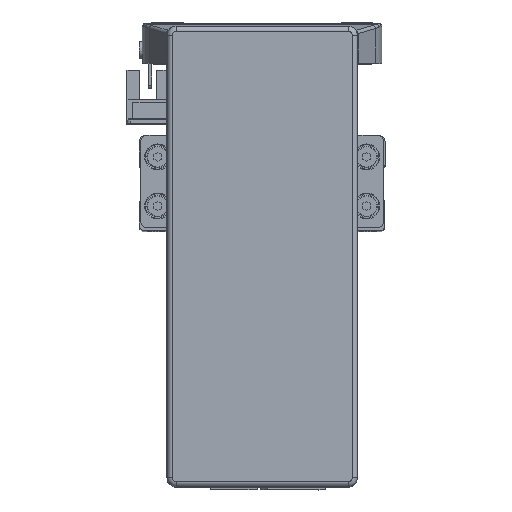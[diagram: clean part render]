
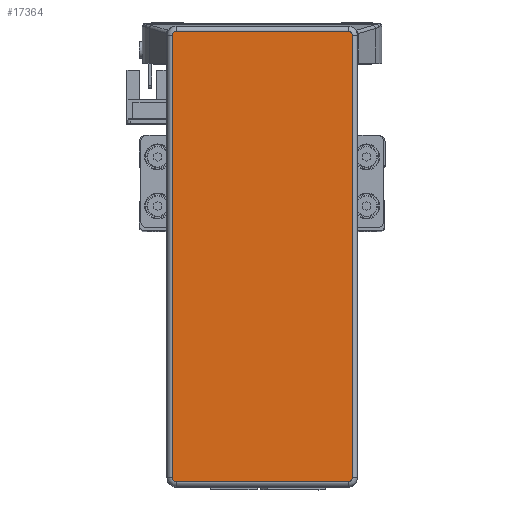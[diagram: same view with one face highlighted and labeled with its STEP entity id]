
A CAD part, top view. The second image highlights one B-rep face of the part: STEP entity #17364.
In plain terms, the highlighted planar face has unit normal (0, 0, 1) as drawn and (0, 0, -1) by its records, which use the part's own axes.
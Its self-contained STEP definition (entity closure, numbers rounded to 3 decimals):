
#2312 = DIRECTION ( 'NONE',  ( 0., 0., -1. ) ) ;
#2313 = DIRECTION ( 'NONE',  ( 1., 0., 0. ) ) ;
#2317 = CARTESIAN_POINT ( 'NONE',  ( -71.995, -27.995, -32.2 ) ) ;
#2326 = CARTESIAN_POINT ( 'NONE',  ( 73.295, -27.995, -32.2 ) ) ;
#2330 = DIRECTION ( 'NONE',  ( 0., -1., 0. ) ) ;
#2532 = EDGE_CURVE ( 'NONE', #22477, #22515, #7005, .T. ) ;
#2537 = EDGE_CURVE ( 'NONE', #22502, #22400, #7021, .T. ) ;
#2567 = EDGE_CURVE ( 'NONE', #22425, #22475, #7085, .T. ) ;
#2571 = EDGE_CURVE ( 'NONE', #22475, #22430, #7136, .T. ) ;
#2575 = EDGE_CURVE ( 'NONE', #22515, #22502, #7088, .T. ) ;
#2598 = EDGE_CURVE ( 'NONE', #22400, #22425, #7082, .T. ) ;
#2603 = EDGE_CURVE ( 'NONE', #22430, #22500, #7171, .T. ) ;
#2645 = EDGE_CURVE ( 'NONE', #22500, #22477, #6028, .T. ) ;
#5850 = EDGE_LOOP ( 'NONE', ( #16200, #16260, #16164, #16216, #16195, #16186, #16136, #16194 ) ) ;
#6021 = VECTOR ( 'NONE', #30368, 1000. ) ;
#6028 = LINE ( 'NONE', #30358, #6021 ) ;
#7005 = CIRCLE ( 'NONE', #7521, 1.3 ) ;
#7021 = CIRCLE ( 'NONE', #7551, 1.3 ) ;
#7082 = LINE ( 'NONE', #2326, #7182 ) ;
#7085 = CIRCLE ( 'NONE', #7499, 1.3 ) ;
#7088 = LINE ( 'NONE', #13045, #7126 ) ;
#7102 = VECTOR ( 'NONE', #13065, 1000. ) ;
#7126 = VECTOR ( 'NONE', #13056, 1000. ) ;
#7136 = LINE ( 'NONE', #13062, #7102 ) ;
#7171 = CIRCLE ( 'NONE', #7557, 1.3 ) ;
#7182 = VECTOR ( 'NONE', #2330, 1000. ) ;
#7499 = AXIS2_PLACEMENT_3D ( 'NONE', #13081, #13061, #13083 ) ;
#7521 = AXIS2_PLACEMENT_3D ( 'NONE', #13222, #13226, #12971 ) ;
#7551 = AXIS2_PLACEMENT_3D ( 'NONE', #12992, #12965, #13000 ) ;
#7557 = AXIS2_PLACEMENT_3D ( 'NONE', #2317, #2312, #2313 ) ;
#8544 = AXIS2_PLACEMENT_3D ( 'NONE', #43955, #43979, #43954 ) ;
#12965 = DIRECTION ( 'NONE',  ( 0., 0., -1. ) ) ;
#12971 = DIRECTION ( 'NONE',  ( 1., 0., 0. ) ) ;
#12992 = CARTESIAN_POINT ( 'NONE',  ( 71.995, 27.995, -32.2 ) ) ;
#13000 = DIRECTION ( 'NONE',  ( 1., 0., 0. ) ) ;
#13045 = CARTESIAN_POINT ( 'NONE',  ( 71.995, 29.295, -32.2 ) ) ;
#13056 = DIRECTION ( 'NONE',  ( 1., 0., 0. ) ) ;
#13061 = DIRECTION ( 'NONE',  ( 0., 0., -1. ) ) ;
#13062 = CARTESIAN_POINT ( 'NONE',  ( 71.995, -29.295, -32.2 ) ) ;
#13065 = DIRECTION ( 'NONE',  ( -1., 0., 0. ) ) ;
#13081 = CARTESIAN_POINT ( 'NONE',  ( 71.995, -27.995, -32.2 ) ) ;
#13083 = DIRECTION ( 'NONE',  ( 1., 0., 0. ) ) ;
#13222 = CARTESIAN_POINT ( 'NONE',  ( -71.995, 27.995, -32.2 ) ) ;
#13226 = DIRECTION ( 'NONE',  ( 0., 0., -1. ) ) ;
#13691 = FACE_OUTER_BOUND ( 'NONE', #5850, .T. ) ;
#16136 = ORIENTED_EDGE ( 'NONE', *, *, #2575, .T. ) ;
#16164 = ORIENTED_EDGE ( 'NONE', *, *, #2571, .T. ) ;
#16186 = ORIENTED_EDGE ( 'NONE', *, *, #2532, .T. ) ;
#16194 = ORIENTED_EDGE ( 'NONE', *, *, #2537, .T. ) ;
#16195 = ORIENTED_EDGE ( 'NONE', *, *, #2645, .T. ) ;
#16200 = ORIENTED_EDGE ( 'NONE', *, *, #2598, .T. ) ;
#16216 = ORIENTED_EDGE ( 'NONE', *, *, #2603, .T. ) ;
#16260 = ORIENTED_EDGE ( 'NONE', *, *, #2567, .T. ) ;
#17364 = ADVANCED_FACE ( 'NONE', ( #13691 ), #43911, .F. ) ;
#22400 = VERTEX_POINT ( 'NONE', #28990 ) ;
#22425 = VERTEX_POINT ( 'NONE', #29031 ) ;
#22430 = VERTEX_POINT ( 'NONE', #29000 ) ;
#22475 = VERTEX_POINT ( 'NONE', #29133 ) ;
#22477 = VERTEX_POINT ( 'NONE', #29149 ) ;
#22500 = VERTEX_POINT ( 'NONE', #29161 ) ;
#22502 = VERTEX_POINT ( 'NONE', #29132 ) ;
#22515 = VERTEX_POINT ( 'NONE', #29110 ) ;
#28990 = CARTESIAN_POINT ( 'NONE',  ( 73.295, 27.995, -32.2 ) ) ;
#29000 = CARTESIAN_POINT ( 'NONE',  ( -71.995, -29.295, -32.2 ) ) ;
#29031 = CARTESIAN_POINT ( 'NONE',  ( 73.295, -27.995, -32.2 ) ) ;
#29110 = CARTESIAN_POINT ( 'NONE',  ( -71.995, 29.295, -32.2 ) ) ;
#29132 = CARTESIAN_POINT ( 'NONE',  ( 71.995, 29.295, -32.2 ) ) ;
#29133 = CARTESIAN_POINT ( 'NONE',  ( 71.995, -29.295, -32.2 ) ) ;
#29149 = CARTESIAN_POINT ( 'NONE',  ( -73.295, 27.995, -32.2 ) ) ;
#29161 = CARTESIAN_POINT ( 'NONE',  ( -73.295, -27.995, -32.2 ) ) ;
#30358 = CARTESIAN_POINT ( 'NONE',  ( -73.295, -27.995, -32.2 ) ) ;
#30368 = DIRECTION ( 'NONE',  ( 0., 1., 0. ) ) ;
#43911 = PLANE ( 'NONE',  #8544 ) ;
#43954 = DIRECTION ( 'NONE',  ( 1., 0., 0. ) ) ;
#43955 = CARTESIAN_POINT ( 'NONE',  ( 71.995, -27.995, -32.2 ) ) ;
#43979 = DIRECTION ( 'NONE',  ( 0., 0., 1. ) ) ;
